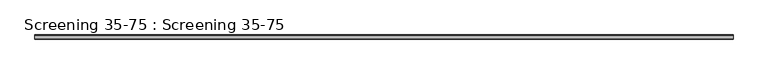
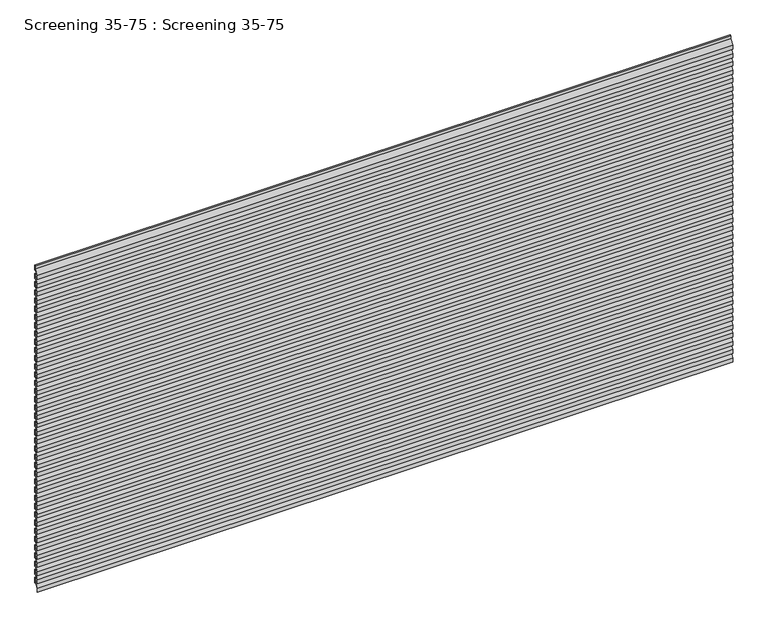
"""IFC4 building model written with IfcOpenShell, lengths in millimetres: plate geometry, Screening 35-75 : Screening 35-75."""

import ifcopenshell
import ifcopenshell.guid

model = None  # the IFC model being written
_history = None  # IfcOwnerHistory: only IFC2X3 demands one
_inside = {}  # id of a spatial element -> (the spatial element, [elements in it])
_under = {}  # id of a project, library or spatial element -> (it, [spatial elements below it])
_declared = {}  # id of a project -> (the project, [libraries it declares])
_typed = {}  # id of a type object -> (the type object, [elements of that type])
_made_of = {}  # id of a material, layer set ... -> (it, [elements and type objects made of it])


def new_model(schema):
    """Start an empty IFC model of exactly this schema.

    Asked for "IFC4X3", IfcOpenShell would pick the latest addendum, in which some entities
    have other attributes; the version numbers below select the first issue.
    IFC2X3 requires an IfcOwnerHistory on every rooted entity: one is made here for all.
    """
    global model, _history
    if schema == "IFC4X3":
        model = ifcopenshell.file(schema_version=(4, 3, 0, 0))
    else:
        model = ifcopenshell.file(schema=schema)
    _inside.clear()
    _under.clear()
    _declared.clear()
    _typed.clear()
    _made_of.clear()
    _history = None
    if model.schema == "IFC2X3":
        org = make("IfcOrganization", Name="unknown")
        user = make(
            "IfcPersonAndOrganization",
            ThePerson=make("IfcPerson", FamilyName="unknown"),
            TheOrganization=org,
        )
        app = make(
            "IfcApplication",
            ApplicationDeveloper=org,
            Version="unknown",
            ApplicationFullName="unknown",
            ApplicationIdentifier="unknown",
        )
        _history = make(
            "IfcOwnerHistory",
            OwningUser=user,
            OwningApplication=app,
            ChangeAction="ADDED",
            CreationDate=0,
        )
    return model


def make(cls, **values):
    """One entity of the class cls with the attributes given. An attribute that is None is left unset."""
    return model.create_entity(
        cls, **{name: value for name, value in values.items() if value is not None}
    )


def rooted(cls, **values):
    """An entity with a GlobalId (a new one), such as an element, a storey or a relation."""
    return make(cls, GlobalId=ifcopenshell.guid.new(), OwnerHistory=_history, **values)


def si_unit(unit_type, name, prefix=None):
    """IfcSIUnit, for example si_unit("LENGTHUNIT", "METRE", prefix="MILLI")."""
    return make("IfcSIUnit", UnitType=unit_type, Prefix=prefix, Name=name)


def assignment(units):
    """IfcUnitAssignment: the units of a project."""
    return None if units is None else make("IfcUnitAssignment", Units=units)


def point(xyz):
    """IfcCartesianPoint."""
    return None if xyz is None else make("IfcCartesianPoint", Coordinates=xyz)


def direction(xyz):
    """IfcDirection."""
    return None if xyz is None else make("IfcDirection", DirectionRatios=xyz)


def frame(location, z_axis=None, x_axis=None):
    """IfcAxis2Placement3D, a coordinate frame: its origin and axes. An axis left out is left unset."""
    return make(
        "IfcAxis2Placement3D",
        Location=point(location),
        Axis=direction(z_axis),
        RefDirection=direction(x_axis),
    )


def origin():
    """The frame at (0, 0, 0) with its axes left unset."""
    return frame((0.0, 0.0, 0.0))


def place(relative_to, where):
    """IfcLocalPlacement: puts the frame where relative to a parent placement (None: the world)."""
    return make(
        "IfcLocalPlacement", PlacementRelTo=relative_to, RelativePlacement=where
    )


def context(
    kind, dimensions, precision=None, world=None, true_north=None, identifier=None
):
    """IfcGeometricRepresentationContext, for example the 3D "Model" context."""
    return make(
        "IfcGeometricRepresentationContext",
        ContextIdentifier=identifier,
        ContextType=kind,
        CoordinateSpaceDimension=dimensions,
        Precision=precision,
        WorldCoordinateSystem=world,
        TrueNorth=true_north,
    )


def project(units=None, contexts=None):
    """IfcProject with its units and contexts."""
    return rooted(
        "IfcProject",
        Name="project",
        RepresentationContexts=contexts,
        UnitsInContext=assignment(units),
    )


def spatial(cls, under=None, at=None, **own):
    """A site, building, storey or space (cls), placed at a placement, below another one or the project."""
    s = rooted(cls, ObjectPlacement=at, **own)
    if under is not None:
        _under.setdefault(under.id(), (under, []))[1].append(s)
    return s


def polyline(points):
    """IfcPolyline through the points."""
    return make("IfcPolyline", Points=[point(p) for p in points])


def outline(outer, holes=None, kind="AREA"):
    """IfcArbitraryClosedProfileDef: a profile drawn as a closed curve; with holes, ...WithVoids."""
    if holes is None:
        return make("IfcArbitraryClosedProfileDef", ProfileType=kind, OuterCurve=outer)
    return make(
        "IfcArbitraryProfileDefWithVoids",
        ProfileType=kind,
        OuterCurve=outer,
        InnerCurves=holes,
    )


def extrude(swept, where, along, depth):
    """IfcExtrudedAreaSolid: the profile swept, set in the frame where, extruded along a direction by depth."""
    return make(
        "IfcExtrudedAreaSolid",
        SweptArea=swept,
        Position=where,
        ExtrudedDirection=direction(along),
        Depth=depth,
    )


def shape(context_of_items, identifier, shape_type, items):
    """IfcShapeRepresentation: the items that make up one representation, for example the "Body"."""
    return make(
        "IfcShapeRepresentation",
        ContextOfItems=context_of_items,
        RepresentationIdentifier=identifier,
        RepresentationType=shape_type,
        Items=items,
    )


def source(mapping_origin, context_of_items, identifier, shape_type, items):
    """IfcRepresentationMap: a shape defined once, which mapped items show again and again."""
    return make(
        "IfcRepresentationMap",
        MappingOrigin=mapping_origin,
        MappedRepresentation=shape(context_of_items, identifier, shape_type, items),
    )


def transform(
    local_origin,
    x_axis=None,
    y_axis=None,
    z_axis=None,
    scale=None,
    scale2=None,
    scale3=None,
    uniform=True,
):
    """IfcCartesianTransformationOperator3D, or its non-uniform kind. x_axis, y_axis, z_axis: its Axis1, 2, 3."""
    if uniform:
        return make(
            "IfcCartesianTransformationOperator3D",
            Axis1=direction(x_axis),
            Axis2=direction(y_axis),
            LocalOrigin=point(local_origin),
            Scale=scale,
            Axis3=direction(z_axis),
        )
    return make(
        "IfcCartesianTransformationOperator3DnonUniform",
        Axis1=direction(x_axis),
        Axis2=direction(y_axis),
        LocalOrigin=point(local_origin),
        Scale=scale,
        Axis3=direction(z_axis),
        Scale2=scale2,
        Scale3=scale3,
    )


def mapped(mapping_source, mapping_target):
    """IfcMappedItem: shows the shape of a source again, moved by a transform."""
    return make(
        "IfcMappedItem", MappingSource=mapping_source, MappingTarget=mapping_target
    )


def made_of(thing, what):
    """Note that an element or type object is made of a material, layer set ...; save() writes the relation."""
    if what is not None:
        _made_of.setdefault(what.id(), (what, []))[1].append(thing)
    return thing


def element(
    cls,
    number,
    at=None,
    inside=None,
    cuts=None,
    type_object=None,
    material=None,
    context=None,
    identifier="Body",
    shape_type=None,
    held_by="IfcProductDefinitionShape",
    body=None,
    shapes=None,
    **own,
):
    """One element of the class cls, such as IfcWall. Its Tag is "e" and its number.

    at: its placement. inside: the storey or other place that contains it. cuts: it is an
    opening in that element (IfcRelVoidsElement). A single representation is given by context,
    identifier, shape_type and body (its items); several are given by shapes. held_by: the class
    of the entity that holds the representations. save() writes the other relations.
    """
    e = rooted(cls, Tag="e%d" % number, ObjectPlacement=at, **own)
    if body is not None:
        shapes = [shape(context, identifier, shape_type, body)]
    if shapes is not None:
        e.Representation = make(held_by, Representations=shapes)
    if inside is not None:
        _inside.setdefault(inside.id(), (inside, []))[1].append(e)
    if cuts is not None:
        rooted(
            "IfcRelVoidsElement", RelatingBuildingElement=cuts, RelatedOpeningElement=e
        )
    if type_object is not None:
        _typed.setdefault(type_object.id(), (type_object, []))[1].append(e)
    return made_of(e, material)


def aggregate(whole, parts):
    """IfcRelAggregates: a whole, such as a stair, and the parts it consists of."""
    return rooted("IfcRelAggregates", RelatingObject=whole, RelatedObjects=parts)


def save(model, path):
    """Write the relations noted so far, then the file.

    IfcRelAggregates (storeys below a building ...), IfcRelContainedInSpatialStructure (elements
    in a storey), IfcRelDefinesByType, IfcRelAssociatesMaterial and IfcRelDeclares: one each for
    every whole, place, type object, material and project.
    """
    for whole, parts in _under.values():
        aggregate(whole, parts)
    for where, things in _inside.values():
        rooted(
            "IfcRelContainedInSpatialStructure",
            RelatedElements=things,
            RelatingStructure=where,
        )
    for kind, things in _typed.values():
        rooted("IfcRelDefinesByType", RelatedObjects=things, RelatingType=kind)
    for what, things in _made_of.values():
        rooted("IfcRelAssociatesMaterial", RelatedObjects=things, RelatingMaterial=what)
    for by, libraries in _declared.values():
        rooted("IfcRelDeclares", RelatingContext=by, RelatedDefinitions=libraries)
    model.write(path)


def screening_35_75_screening_35_75_062fe571(model_context):
    return source(origin(), model_context, "Body", "SweptSolid", [
        extrude(outline(polyline([(-34.9638304, 2862.1), (-34.9638304, 2898.1958995), (-4.35, 2941.9800402), (-4.35, 2969.1451224), (0.0, 2973.4298892), (0.0, 2926.6482493), (-13.0819089, 2926.6482493), (-33.4, 2897.5767062), (-33.4, 2862.1), (-34.9638304, 2862.1)])), frame((-3000.0, 0.0, 0.0), z_axis=(1.0, 0.0, 0.0), x_axis=(0.0, 1.0, 0.0)), (0.0, 0.0, 1.0), 6000.0),
        extrude(outline(polyline([(-34.9638304, 2787.1), (-34.9638304, 2823.1958995), (-4.35, 2866.9800402), (-4.35, 2894.1451224), (0.0, 2898.4298892), (0.0, 2851.6482493), (-13.0819089, 2851.6482493), (-33.4, 2822.5767062), (-33.4, 2787.1), (-34.9638304, 2787.1)])), frame((-3000.0, 0.0, 0.0), z_axis=(1.0, 0.0, 0.0), x_axis=(0.0, 1.0, 0.0)), (0.0, 0.0, 1.0), 6000.0),
        extrude(outline(polyline([(-34.9638304, 2712.1), (-34.9638304, 2748.1958995), (-4.35, 2791.9800402), (-4.35, 2819.1451224), (0.0, 2823.4298892), (0.0, 2776.6482493), (-13.0819089, 2776.6482493), (-33.4, 2747.5767062), (-33.4, 2712.1), (-34.9638304, 2712.1)])), frame((-3000.0, 0.0, 0.0), z_axis=(1.0, 0.0, 0.0), x_axis=(0.0, 1.0, 0.0)), (0.0, 0.0, 1.0), 6000.0),
        extrude(outline(polyline([(-34.9638304, 2637.1), (-34.9638304, 2673.1958995), (-4.35, 2716.9800402), (-4.35, 2744.1451224), (0.0, 2748.4298892), (0.0, 2701.6482493), (-13.0819089, 2701.6482493), (-33.4, 2672.5767062), (-33.4, 2637.1), (-34.9638304, 2637.1)])), frame((-3000.0, 0.0, 0.0), z_axis=(1.0, 0.0, 0.0), x_axis=(0.0, 1.0, 0.0)), (0.0, 0.0, 1.0), 6000.0),
        extrude(outline(polyline([(-34.9638304, 2562.1), (-34.9638304, 2598.1958995), (-4.35, 2641.9800402), (-4.35, 2669.1451224), (0.0, 2673.4298892), (0.0, 2626.6482493), (-13.0819089, 2626.6482493), (-33.4, 2597.5767062), (-33.4, 2562.1), (-34.9638304, 2562.1)])), frame((-3000.0, 0.0, 0.0), z_axis=(1.0, 0.0, 0.0), x_axis=(0.0, 1.0, 0.0)), (0.0, 0.0, 1.0), 6000.0),
        extrude(outline(polyline([(-34.9638304, 2487.1), (-34.9638304, 2523.1958995), (-4.35, 2566.9800402), (-4.35, 2594.1451224), (0.0, 2598.4298892), (0.0, 2551.6482493), (-13.0819089, 2551.6482493), (-33.4, 2522.5767062), (-33.4, 2487.1), (-34.9638304, 2487.1)])), frame((-3000.0, 0.0, 0.0), z_axis=(1.0, 0.0, 0.0), x_axis=(0.0, 1.0, 0.0)), (0.0, 0.0, 1.0), 6000.0),
        extrude(outline(polyline([(-34.9638304, 2412.1), (-34.9638304, 2448.1958995), (-4.35, 2491.9800402), (-4.35, 2519.1451224), (0.0, 2523.4298892), (0.0, 2476.6482493), (-13.0819089, 2476.6482493), (-33.4, 2447.5767062), (-33.4, 2412.1), (-34.9638304, 2412.1)])), frame((-3000.0, 0.0, 0.0), z_axis=(1.0, 0.0, 0.0), x_axis=(0.0, 1.0, 0.0)), (0.0, 0.0, 1.0), 6000.0),
        extrude(outline(polyline([(-34.9638304, 2337.1), (-34.9638304, 2373.1958995), (-4.35, 2416.9800402), (-4.35, 2444.1451224), (0.0, 2448.4298892), (0.0, 2401.6482493), (-13.0819089, 2401.6482493), (-33.4, 2372.5767062), (-33.4, 2337.1), (-34.9638304, 2337.1)])), frame((-3000.0, 0.0, 0.0), z_axis=(1.0, 0.0, 0.0), x_axis=(0.0, 1.0, 0.0)), (0.0, 0.0, 1.0), 6000.0),
        extrude(outline(polyline([(-34.9638304, 2262.1), (-34.9638304, 2298.1958995), (-4.35, 2341.9800402), (-4.35, 2369.1451224), (0.0, 2373.4298892), (0.0, 2326.6482493), (-13.0819089, 2326.6482493), (-33.4, 2297.5767062), (-33.4, 2262.1), (-34.9638304, 2262.1)])), frame((-3000.0, 0.0, 0.0), z_axis=(1.0, 0.0, 0.0), x_axis=(0.0, 1.0, 0.0)), (0.0, 0.0, 1.0), 6000.0),
        extrude(outline(polyline([(-34.9638304, 2187.1), (-34.9638304, 2223.1958995), (-4.35, 2266.9800402), (-4.35, 2294.1451224), (0.0, 2298.4298892), (0.0, 2251.6482493), (-13.0819089, 2251.6482493), (-33.4, 2222.5767062), (-33.4, 2187.1), (-34.9638304, 2187.1)])), frame((-3000.0, 0.0, 0.0), z_axis=(1.0, 0.0, 0.0), x_axis=(0.0, 1.0, 0.0)), (0.0, 0.0, 1.0), 6000.0),
        extrude(outline(polyline([(-34.9638304, 2112.1), (-34.9638304, 2148.1958995), (-4.35, 2191.9800402), (-4.35, 2219.1451224), (0.0, 2223.4298892), (0.0, 2176.6482493), (-13.0819089, 2176.6482493), (-33.4, 2147.5767062), (-33.4, 2112.1), (-34.9638304, 2112.1)])), frame((-3000.0, 0.0, 0.0), z_axis=(1.0, 0.0, 0.0), x_axis=(0.0, 1.0, 0.0)), (0.0, 0.0, 1.0), 6000.0),
        extrude(outline(polyline([(-34.9638304, 2037.1), (-34.9638304, 2073.1958995), (-4.35, 2116.9800402), (-4.35, 2144.1451224), (0.0, 2148.4298892), (0.0, 2101.6482493), (-13.0819089, 2101.6482493), (-33.4, 2072.5767062), (-33.4, 2037.1), (-34.9638304, 2037.1)])), frame((-3000.0, 0.0, 0.0), z_axis=(1.0, 0.0, 0.0), x_axis=(0.0, 1.0, 0.0)), (0.0, 0.0, 1.0), 6000.0),
        extrude(outline(polyline([(-34.9638304, 1962.1), (-34.9638304, 1998.1958995), (-4.35, 2041.9800402), (-4.35, 2069.1451224), (0.0, 2073.4298892), (0.0, 2026.6482493), (-13.0819089, 2026.6482493), (-33.4, 1997.5767062), (-33.4, 1962.1), (-34.9638304, 1962.1)])), frame((-3000.0, 0.0, 0.0), z_axis=(1.0, 0.0, 0.0), x_axis=(0.0, 1.0, 0.0)), (0.0, 0.0, 1.0), 6000.0),
        extrude(outline(polyline([(-34.9638304, 1887.1), (-34.9638304, 1923.1958995), (-4.35, 1966.9800402), (-4.35, 1994.1451224), (0.0, 1998.4298892), (0.0, 1951.6482493), (-13.0819089, 1951.6482493), (-33.4, 1922.5767062), (-33.4, 1887.1), (-34.9638304, 1887.1)])), frame((-3000.0, 0.0, 0.0), z_axis=(1.0, 0.0, 0.0), x_axis=(0.0, 1.0, 0.0)), (0.0, 0.0, 1.0), 6000.0),
        extrude(outline(polyline([(-34.9638304, 1812.1), (-34.9638304, 1848.1958995), (-4.35, 1891.9800402), (-4.35, 1919.1451224), (0.0, 1923.4298892), (0.0, 1876.6482493), (-13.0819089, 1876.6482493), (-33.4, 1847.5767062), (-33.4, 1812.1), (-34.9638304, 1812.1)])), frame((-3000.0, 0.0, 0.0), z_axis=(1.0, 0.0, 0.0), x_axis=(0.0, 1.0, 0.0)), (0.0, 0.0, 1.0), 6000.0),
        extrude(outline(polyline([(-34.9638304, 1737.1), (-34.9638304, 1773.1958995), (-4.35, 1816.9800402), (-4.35, 1844.1451224), (0.0, 1848.4298892), (0.0, 1801.6482493), (-13.0819089, 1801.6482493), (-33.4, 1772.5767062), (-33.4, 1737.1), (-34.9638304, 1737.1)])), frame((-3000.0, 0.0, 0.0), z_axis=(1.0, 0.0, 0.0), x_axis=(0.0, 1.0, 0.0)), (0.0, 0.0, 1.0), 6000.0),
        extrude(outline(polyline([(-34.9638304, 1662.1), (-34.9638304, 1698.1958995), (-4.35, 1741.9800402), (-4.35, 1769.1451224), (0.0, 1773.4298892), (0.0, 1726.6482493), (-13.0819089, 1726.6482493), (-33.4, 1697.5767062), (-33.4, 1662.1), (-34.9638304, 1662.1)])), frame((-3000.0, 0.0, 0.0), z_axis=(1.0, 0.0, 0.0), x_axis=(0.0, 1.0, 0.0)), (0.0, 0.0, 1.0), 6000.0),
        extrude(outline(polyline([(-34.9638304, 1587.1), (-34.9638304, 1623.1958995), (-4.35, 1666.9800402), (-4.35, 1694.1451224), (0.0, 1698.4298892), (0.0, 1651.6482493), (-13.0819089, 1651.6482493), (-33.4, 1622.5767062), (-33.4, 1587.1), (-34.9638304, 1587.1)])), frame((-3000.0, 0.0, 0.0), z_axis=(1.0, 0.0, 0.0), x_axis=(0.0, 1.0, 0.0)), (0.0, 0.0, 1.0), 6000.0),
        extrude(outline(polyline([(-34.9638304, 1512.1), (-34.9638304, 1548.1958995), (-4.35, 1591.9800402), (-4.35, 1619.1451224), (0.0, 1623.4298892), (0.0, 1576.6482493), (-13.0819089, 1576.6482493), (-33.4, 1547.5767062), (-33.4, 1512.1), (-34.9638304, 1512.1)])), frame((-3000.0, 0.0, 0.0), z_axis=(1.0, 0.0, 0.0), x_axis=(0.0, 1.0, 0.0)), (0.0, 0.0, 1.0), 6000.0),
        extrude(outline(polyline([(-34.9638304, 1437.1), (-34.9638304, 1473.1958995), (-4.35, 1516.9800402), (-4.35, 1544.1451224), (0.0, 1548.4298892), (0.0, 1501.6482493), (-13.0819089, 1501.6482493), (-33.4, 1472.5767062), (-33.4, 1437.1), (-34.9638304, 1437.1)])), frame((-3000.0, 0.0, 0.0), z_axis=(1.0, 0.0, 0.0), x_axis=(0.0, 1.0, 0.0)), (0.0, 0.0, 1.0), 6000.0),
        extrude(outline(polyline([(-34.9638304, 1362.1), (-34.9638304, 1398.1958995), (-4.35, 1441.9800402), (-4.35, 1469.1451224), (0.0, 1473.4298892), (0.0, 1426.6482493), (-13.0819089, 1426.6482493), (-33.4, 1397.5767062), (-33.4, 1362.1), (-34.9638304, 1362.1)])), frame((-3000.0, 0.0, 0.0), z_axis=(1.0, 0.0, 0.0), x_axis=(0.0, 1.0, 0.0)), (0.0, 0.0, 1.0), 6000.0),
        extrude(outline(polyline([(-34.9638304, 1287.1), (-34.9638304, 1323.1958995), (-4.35, 1366.9800402), (-4.35, 1394.1451224), (0.0, 1398.4298892), (0.0, 1351.6482493), (-13.0819089, 1351.6482493), (-33.4, 1322.5767062), (-33.4, 1287.1), (-34.9638304, 1287.1)])), frame((-3000.0, 0.0, 0.0), z_axis=(1.0, 0.0, 0.0), x_axis=(0.0, 1.0, 0.0)), (0.0, 0.0, 1.0), 6000.0),
        extrude(outline(polyline([(-34.9638304, 1212.1), (-34.9638304, 1248.1958995), (-4.35, 1291.9800402), (-4.35, 1319.1451224), (0.0, 1323.4298892), (0.0, 1276.6482493), (-13.0819089, 1276.6482493), (-33.4, 1247.5767062), (-33.4, 1212.1), (-34.9638304, 1212.1)])), frame((-3000.0, 0.0, 0.0), z_axis=(1.0, 0.0, 0.0), x_axis=(0.0, 1.0, 0.0)), (0.0, 0.0, 1.0), 6000.0),
        extrude(outline(polyline([(-34.9638304, 1137.1), (-34.9638304, 1173.1958995), (-4.35, 1216.9800402), (-4.35, 1244.1451224), (0.0, 1248.4298892), (0.0, 1201.6482493), (-13.0819089, 1201.6482493), (-33.4, 1172.5767062), (-33.4, 1137.1), (-34.9638304, 1137.1)])), frame((-3000.0, 0.0, 0.0), z_axis=(1.0, 0.0, 0.0), x_axis=(0.0, 1.0, 0.0)), (0.0, 0.0, 1.0), 6000.0),
        extrude(outline(polyline([(-34.9638304, 1062.1), (-34.9638304, 1098.1958995), (-4.35, 1141.9800402), (-4.35, 1169.1451224), (0.0, 1173.4298892), (0.0, 1126.6482493), (-13.0819089, 1126.6482493), (-33.4, 1097.5767062), (-33.4, 1062.1), (-34.9638304, 1062.1)])), frame((-3000.0, 0.0, 0.0), z_axis=(1.0, 0.0, 0.0), x_axis=(0.0, 1.0, 0.0)), (0.0, 0.0, 1.0), 6000.0),
        extrude(outline(polyline([(-34.9638304, 987.1), (-34.9638304, 1023.1958995), (-4.35, 1066.9800402), (-4.35, 1094.1451224), (0.0, 1098.4298892), (0.0, 1051.6482493), (-13.0819089, 1051.6482493), (-33.4, 1022.5767062), (-33.4, 987.1), (-34.9638304, 987.1)])), frame((-3000.0, 0.0, 0.0), z_axis=(1.0, 0.0, 0.0), x_axis=(0.0, 1.0, 0.0)), (0.0, 0.0, 1.0), 6000.0),
        extrude(outline(polyline([(-34.9638304, 912.1), (-34.9638304, 948.1958995), (-4.35, 991.9800402), (-4.35, 1019.1451224), (0.0, 1023.4298892), (0.0, 976.6482493), (-13.0819089, 976.6482493), (-33.4, 947.5767062), (-33.4, 912.1), (-34.9638304, 912.1)])), frame((-3000.0, 0.0, 0.0), z_axis=(1.0, 0.0, 0.0), x_axis=(0.0, 1.0, 0.0)), (0.0, 0.0, 1.0), 6000.0),
        extrude(outline(polyline([(-34.9638304, 837.1), (-34.9638304, 873.1958995), (-4.35, 916.9800402), (-4.35, 944.1451224), (0.0, 948.4298892), (0.0, 901.6482493), (-13.0819089, 901.6482493), (-33.4, 872.5767062), (-33.4, 837.1), (-34.9638304, 837.1)])), frame((-3000.0, 0.0, 0.0), z_axis=(1.0, 0.0, 0.0), x_axis=(0.0, 1.0, 0.0)), (0.0, 0.0, 1.0), 6000.0),
        extrude(outline(polyline([(-34.9638304, 762.1), (-34.9638304, 798.1958995), (-4.35, 841.9800402), (-4.35, 869.1451224), (0.0, 873.4298892), (0.0, 826.6482493), (-13.0819089, 826.6482493), (-33.4, 797.5767062), (-33.4, 762.1), (-34.9638304, 762.1)])), frame((-3000.0, 0.0, 0.0), z_axis=(1.0, 0.0, 0.0), x_axis=(0.0, 1.0, 0.0)), (0.0, 0.0, 1.0), 6000.0),
        extrude(outline(polyline([(-34.9638304, 687.1), (-34.9638304, 723.1958995), (-4.35, 766.9800402), (-4.35, 794.1451224), (0.0, 798.4298892), (0.0, 751.6482493), (-13.0819089, 751.6482493), (-33.4, 722.5767062), (-33.4, 687.1), (-34.9638304, 687.1)])), frame((-3000.0, 0.0, 0.0), z_axis=(1.0, 0.0, 0.0), x_axis=(0.0, 1.0, 0.0)), (0.0, 0.0, 1.0), 6000.0),
        extrude(outline(polyline([(-34.9638304, 612.1), (-34.9638304, 648.1958995), (-4.35, 691.9800402), (-4.35, 719.1451224), (0.0, 723.4298892), (0.0, 676.6482493), (-13.0819089, 676.6482493), (-33.4, 647.5767062), (-33.4, 612.1), (-34.9638304, 612.1)])), frame((-3000.0, 0.0, 0.0), z_axis=(1.0, 0.0, 0.0), x_axis=(0.0, 1.0, 0.0)), (0.0, 0.0, 1.0), 6000.0),
        extrude(outline(polyline([(-34.9638304, 537.1), (-34.9638304, 573.1958995), (-4.35, 616.9800402), (-4.35, 644.1451224), (0.0, 648.4298892), (0.0, 601.6482493), (-13.0819089, 601.6482493), (-33.4, 572.5767062), (-33.4, 537.1), (-34.9638304, 537.1)])), frame((-3000.0, 0.0, 0.0), z_axis=(1.0, 0.0, 0.0), x_axis=(0.0, 1.0, 0.0)), (0.0, 0.0, 1.0), 6000.0),
        extrude(outline(polyline([(-34.9638304, 462.1), (-34.9638304, 498.1958995), (-4.35, 541.9800402), (-4.35, 569.1451224), (0.0, 573.4298892), (0.0, 526.6482493), (-13.0819089, 526.6482493), (-33.4, 497.5767062), (-33.4, 462.1), (-34.9638304, 462.1)])), frame((-3000.0, 0.0, 0.0), z_axis=(1.0, 0.0, 0.0), x_axis=(0.0, 1.0, 0.0)), (0.0, 0.0, 1.0), 6000.0),
        extrude(outline(polyline([(-34.9638304, 387.1), (-34.9638304, 423.1958995), (-4.35, 466.9800402), (-4.35, 494.1451224), (0.0, 498.4298892), (0.0, 451.6482493), (-13.0819089, 451.6482493), (-33.4, 422.5767062), (-33.4, 387.1), (-34.9638304, 387.1)])), frame((-3000.0, 0.0, 0.0), z_axis=(1.0, 0.0, 0.0), x_axis=(0.0, 1.0, 0.0)), (0.0, 0.0, 1.0), 6000.0),
        extrude(outline(polyline([(-34.9638304, 312.1), (-34.9638304, 348.1958995), (-4.35, 391.9800402), (-4.35, 419.1451224), (0.0, 423.4298892), (0.0, 376.6482493), (-13.0819089, 376.6482493), (-33.4, 347.5767062), (-33.4, 312.1), (-34.9638304, 312.1)])), frame((-3000.0, 0.0, 0.0), z_axis=(1.0, 0.0, 0.0), x_axis=(0.0, 1.0, 0.0)), (0.0, 0.0, 1.0), 6000.0),
        extrude(outline(polyline([(-34.9638304, 237.1), (-34.9638304, 273.1958995), (-4.35, 316.9800402), (-4.35, 344.1451224), (0.0, 348.4298892), (0.0, 301.6482493), (-13.0819089, 301.6482493), (-33.4, 272.5767062), (-33.4, 237.1), (-34.9638304, 237.1)])), frame((-3000.0, 0.0, 0.0), z_axis=(1.0, 0.0, 0.0), x_axis=(0.0, 1.0, 0.0)), (0.0, 0.0, 1.0), 6000.0),
        extrude(outline(polyline([(-34.9638304, 162.1), (-34.9638304, 198.1958995), (-4.35, 241.9800402), (-4.35, 269.1451224), (0.0, 273.4298892), (0.0, 226.6482493), (-13.0819089, 226.6482493), (-33.4, 197.5767062), (-33.4, 162.1), (-34.9638304, 162.1)])), frame((-3000.0, 0.0, 0.0), z_axis=(1.0, 0.0, 0.0), x_axis=(0.0, 1.0, 0.0)), (0.0, 0.0, 1.0), 6000.0),
        extrude(outline(polyline([(-34.9638304, 87.1), (-34.9638304, 123.1958995), (-4.35, 166.9800402), (-4.35, 194.1451224), (0.0, 198.4298892), (0.0, 151.6482493), (-13.0819089, 151.6482493), (-33.4, 122.5767062), (-33.4, 87.1), (-34.9638304, 87.1)])), frame((-3000.0, 0.0, 0.0), z_axis=(1.0, 0.0, 0.0), x_axis=(0.0, 1.0, 0.0)), (0.0, 0.0, 1.0), 6000.0),
        extrude(outline(polyline([(-34.9638304, 12.1), (-34.9638304, 48.1958995), (-4.35, 91.9800402), (-4.35, 119.1451224), (0.0, 123.4298892), (0.0, 76.6482493), (-13.0819089, 76.6482493), (-33.4, 47.5767062), (-33.4, 12.1), (-34.9638304, 12.1)])), frame((-3000.0, 0.0, 0.0), z_axis=(1.0, 0.0, 0.0), x_axis=(0.0, 1.0, 0.0)), (0.0, 0.0, 1.0), 6000.0),
    ])


if __name__ == "__main__":
    model = new_model("IFC4")
    model_context = context("Model", 3, world=origin())
    ifc_project = project(units=[si_unit("LENGTHUNIT", "METRE", prefix="MILLI")], contexts=[model_context])
    site = spatial("IfcSite", under=ifc_project)
    building = spatial("IfcBuilding", under=site)
    placement = place(None, origin())
    screening_35_75_screening_35_75_shape = screening_35_75_screening_35_75_062fe571(model_context)
    element("IfcPlate", 1, ObjectType="Screening 35-75 : Screening 35-75", at=placement, inside=building, context=model_context, shape_type="MappedRepresentation", body=[
        mapped(screening_35_75_screening_35_75_shape, transform((0.0, 0.0, 0.0), x_axis=(1.0, 0.0, 0.0), y_axis=(0.0, 1.0, 0.0), z_axis=(0.0, 0.0, 1.0))),
    ])
    save(model, "model.ifc")
